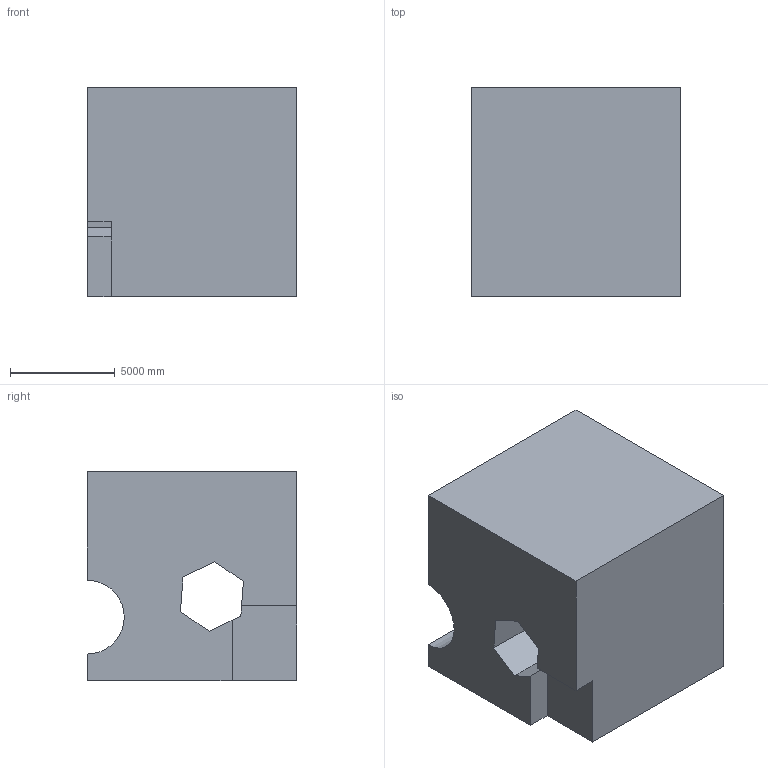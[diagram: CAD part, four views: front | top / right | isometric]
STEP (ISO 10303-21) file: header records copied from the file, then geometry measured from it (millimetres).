
FILE_DESCRIPTION (( 'STEP AP203' ), '1' );
FILE_NAME ('1219.STEP', '2022-08-18T13:14:44', ( 'user' ), ( '' ), 'SwSTEP 2.0', 'SolidWorks 2021', '' );
FILE_SCHEMA (( 'CONFIG_CONTROL_DESIGN' ));
Length unit declared in the file: centimetre
Products named in the file (1): 1219
Bounding box: 10000 x 10000 x 10000 mm (x, y, z)
Volume: 866422724171.4 mm3; surface area: 693665786.2 mm2
Topology: 1 solids, 1 shells, 17 faces, 48 edges, 32 vertices
Faces by surface type: plane 16, cylinder 1
Entity records: 625 total; most frequent: CARTESIAN_POINT 98, ORIENTED_EDGE 96, DIRECTION 86, EDGE_CURVE 48, LINE 46, VECTOR 46, VERTEX_POINT 32, AXIS2_PLACEMENT_3D 20
